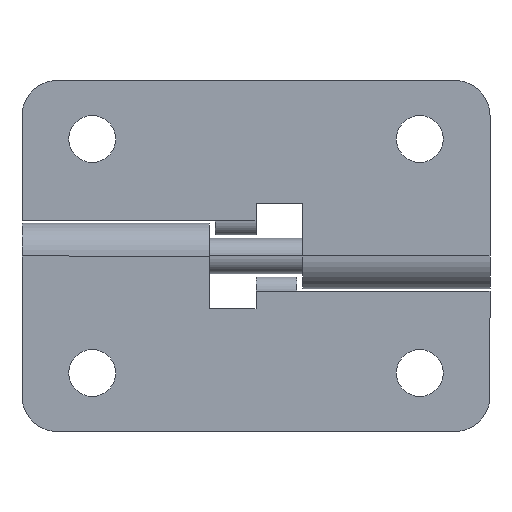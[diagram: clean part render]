
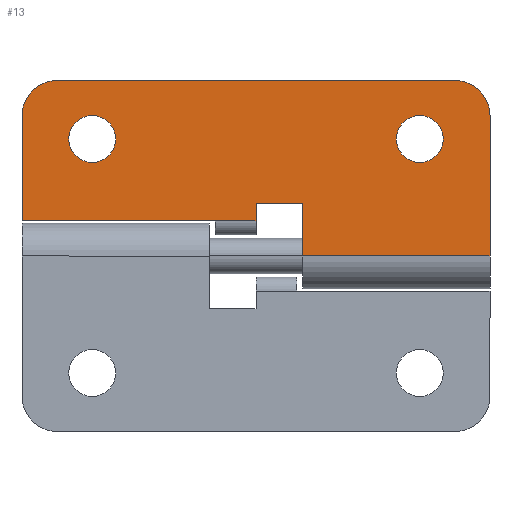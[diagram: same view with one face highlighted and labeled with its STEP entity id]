
A CAD part, left-side view. The second image highlights one B-rep face of the part: STEP entity #13.
In plain terms, the highlighted planar face has unit normal (-1, 0, 0) as drawn and (0, 0, -1) by its records, which use the part's own axes.
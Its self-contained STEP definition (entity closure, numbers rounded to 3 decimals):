
#10 = EDGE_CURVE ( 'NONE', #87, #1950, #209, .T. ) ;
#13 = ADVANCED_FACE ( 'NONE', ( #220, #221, #222 ), #223, .T. ) ;
#28 = VERTEX_POINT ( 'NONE', #271 ) ;
#42 = EDGE_CURVE ( 'NONE', #106, #28, #402, .T. ) ;
#76 = EDGE_CURVE ( 'NONE', #155, #2137, #612, .T. ) ;
#87 = VERTEX_POINT ( 'NONE', #721 ) ;
#106 = VERTEX_POINT ( 'NONE', #938 ) ;
#146 = ORIENTED_EDGE ( 'NONE', *, *, #76, .T. ) ;
#155 = VERTEX_POINT ( 'NONE', #1225 ) ;
#171 = LINE ( 'NONE', #172, #173 ) ;
#172 = CARTESIAN_POINT ( 'NONE',  ( 0., -16., -2.8 ) ) ;
#173 = VECTOR ( 'NONE', #174, 1000. ) ;
#174 = DIRECTION ( 'NONE',  ( -1., 0., 0. ) ) ;
#209 = CIRCLE ( 'NONE', #210, 2. ) ;
#210 = AXIS2_PLACEMENT_3D ( 'NONE', #211, #212, #213 ) ;
#211 = CARTESIAN_POINT ( 'NONE',  ( -10., -10., -2.8 ) ) ;
#212 = DIRECTION ( 'NONE',  ( 0., 0., -1. ) ) ;
#213 = DIRECTION ( 'NONE',  ( -1., 0., 0. ) ) ;
#220 = FACE_BOUND ( 'NONE', #1956, .T. ) ;
#221 = FACE_BOUND ( 'NONE', #2171, .T. ) ;
#222 = FACE_OUTER_BOUND ( 'NONE', #2035, .T. ) ;
#223 = PLANE ( 'NONE',  #224 ) ;
#224 = AXIS2_PLACEMENT_3D ( 'NONE', #225, #226, #227 ) ;
#225 = CARTESIAN_POINT ( 'NONE',  ( 0., -16., -2.8 ) ) ;
#226 = DIRECTION ( 'NONE',  ( 0., 0., -1. ) ) ;
#227 = DIRECTION ( 'NONE',  ( -1., 0., 0. ) ) ;
#237 = LINE ( 'NONE', #238, #239 ) ;
#238 = CARTESIAN_POINT ( 'NONE',  ( -3., 7.5, -2.8 ) ) ;
#239 = VECTOR ( 'NONE', #240, 1000. ) ;
#240 = DIRECTION ( 'NONE',  ( 0., -1., 0. ) ) ;
#271 = CARTESIAN_POINT ( 'NONE',  ( -12., 18., -2.8 ) ) ;
#362 = CARTESIAN_POINT ( 'NONE',  ( -4.5, 0., -2.8 ) ) ;
#402 = CIRCLE ( 'NONE', #403, 2. ) ;
#403 = AXIS2_PLACEMENT_3D ( 'NONE', #404, #405, #406 ) ;
#404 = CARTESIAN_POINT ( 'NONE',  ( -10., 18., -2.8 ) ) ;
#405 = DIRECTION ( 'NONE',  ( 0., 0., -1. ) ) ;
#406 = DIRECTION ( 'NONE',  ( -1., 0., 0. ) ) ;
#461 = LINE ( 'NONE', #462, #463 ) ;
#462 = CARTESIAN_POINT ( 'NONE',  ( -4.5, 4., -2.8 ) ) ;
#463 = VECTOR ( 'NONE', #464, 1000. ) ;
#464 = DIRECTION ( 'NONE',  ( 0., -1., 0. ) ) ;
#498 = CARTESIAN_POINT ( 'NONE',  ( -3., 4., -2.8 ) ) ;
#571 = LINE ( 'NONE', #572, #573 ) ;
#572 = CARTESIAN_POINT ( 'NONE',  ( 0., -16., -2.8 ) ) ;
#573 = VECTOR ( 'NONE', #574, 1000. ) ;
#574 = DIRECTION ( 'NONE',  ( 0., 1., 0. ) ) ;
#612 = CIRCLE ( 'NONE', #613, 3. ) ;
#613 = AXIS2_PLACEMENT_3D ( 'NONE', #614, #615, #616 ) ;
#614 = CARTESIAN_POINT ( 'NONE',  ( -12., 21., -2.8 ) ) ;
#615 = DIRECTION ( 'NONE',  ( 0., 0., -1. ) ) ;
#616 = DIRECTION ( 'NONE',  ( -1., 0., 0. ) ) ;
#652 = CIRCLE ( 'NONE', #653, 3. ) ;
#653 = AXIS2_PLACEMENT_3D ( 'NONE', #654, #655, #656 ) ;
#654 = CARTESIAN_POINT ( 'NONE',  ( -12., -13., -2.8 ) ) ;
#655 = DIRECTION ( 'NONE',  ( 0., 0., -1. ) ) ;
#656 = DIRECTION ( 'NONE',  ( -1., 0., 0. ) ) ;
#657 = LINE ( 'NONE', #658, #659 ) ;
#658 = CARTESIAN_POINT ( 'NONE',  ( -15., -16., -2.8 ) ) ;
#659 = VECTOR ( 'NONE', #660, 1000. ) ;
#660 = DIRECTION ( 'NONE',  ( 0., 1., 0. ) ) ;
#661 = LINE ( 'NONE', #662, #663 ) ;
#662 = CARTESIAN_POINT ( 'NONE',  ( -3., 24., -2.8 ) ) ;
#663 = VECTOR ( 'NONE', #664, 1000. ) ;
#664 = DIRECTION ( 'NONE',  ( 0., -1., 0. ) ) ;
#709 = CARTESIAN_POINT ( 'NONE',  ( -15., -13., -2.8 ) ) ;
#721 = CARTESIAN_POINT ( 'NONE',  ( -8., -10., -2.8 ) ) ;
#758 = CARTESIAN_POINT ( 'NONE',  ( -3., 24., -2.8 ) ) ;
#922 = CIRCLE ( 'NONE', #923, 2. ) ;
#923 = AXIS2_PLACEMENT_3D ( 'NONE', #924, #925, #926 ) ;
#924 = CARTESIAN_POINT ( 'NONE',  ( -10., 18., -2.8 ) ) ;
#925 = DIRECTION ( 'NONE',  ( 0., 0., -1. ) ) ;
#926 = DIRECTION ( 'NONE',  ( -1., 0., 0. ) ) ;
#938 = CARTESIAN_POINT ( 'NONE',  ( -8., 18., -2.8 ) ) ;
#1055 = CARTESIAN_POINT ( 'NONE',  ( -3., 7.5, -2.8 ) ) ;
#1058 = CARTESIAN_POINT ( 'NONE',  ( -4.5, 4., -2.8 ) ) ;
#1084 = CIRCLE ( 'NONE', #1085, 2. ) ;
#1085 = AXIS2_PLACEMENT_3D ( 'NONE', #1086, #1087, #1088 ) ;
#1086 = CARTESIAN_POINT ( 'NONE',  ( -10., -10., -2.8 ) ) ;
#1087 = DIRECTION ( 'NONE',  ( 0., 0., -1. ) ) ;
#1088 = DIRECTION ( 'NONE',  ( -1., 0., 0. ) ) ;
#1113 = LINE ( 'NONE', #1114, #1115 ) ;
#1114 = CARTESIAN_POINT ( 'NONE',  ( -15., 24., -2.8 ) ) ;
#1115 = VECTOR ( 'NONE', #1116, 1000. ) ;
#1116 = DIRECTION ( 'NONE',  ( -1., 0., 0. ) ) ;
#1142 = CARTESIAN_POINT ( 'NONE',  ( 0., 0., -2.8 ) ) ;
#1220 = CARTESIAN_POINT ( 'NONE',  ( -12., -16., -2.8 ) ) ;
#1221 = LINE ( 'NONE', #1222, #1223 ) ;
#1222 = CARTESIAN_POINT ( 'NONE',  ( 0., 0., -2.8 ) ) ;
#1223 = VECTOR ( 'NONE', #1224, 1000. ) ;
#1224 = DIRECTION ( 'NONE',  ( -1., 0., 0. ) ) ;
#1225 = CARTESIAN_POINT ( 'NONE',  ( -15., 21., -2.8 ) ) ;
#1296 = CARTESIAN_POINT ( 'NONE',  ( -12., 24., -2.8 ) ) ;
#1332 = CARTESIAN_POINT ( 'NONE',  ( 0., -16., -2.8 ) ) ;
#1342 = LINE ( 'NONE', #1344, #1345 ) ;
#1344 = CARTESIAN_POINT ( 'NONE',  ( -4.5, 4., -2.8 ) ) ;
#1345 = VECTOR ( 'NONE', #1346, 1000. ) ;
#1346 = DIRECTION ( 'NONE',  ( -1., 0., 0. ) ) ;
#1348 = CARTESIAN_POINT ( 'NONE',  ( -12., -10., -2.8 ) ) ;
#1378 = EDGE_CURVE ( 'NONE', #1910, #1481, #652, .T. ) ;
#1481 = VERTEX_POINT ( 'NONE', #709 ) ;
#1729 = EDGE_CURVE ( 'NONE', #28, #106, #922, .T. ) ;
#1748 = ORIENTED_EDGE ( 'NONE', *, *, #1378, .T. ) ;
#1850 = VERTEX_POINT ( 'NONE', #1055 ) ;
#1851 = VERTEX_POINT ( 'NONE', #1058 ) ;
#1868 = EDGE_CURVE ( 'NONE', #2063, #2137, #1113, .T. ) ;
#1885 = ORIENTED_EDGE ( 'NONE', *, *, #1729, .F. ) ;
#1910 = VERTEX_POINT ( 'NONE', #1220 ) ;
#1939 = VERTEX_POINT ( 'NONE', #1332 ) ;
#1950 = VERTEX_POINT ( 'NONE', #1348 ) ;
#1956 = EDGE_LOOP ( 'NONE', ( #1885, #2191 ) ) ;
#1967 = EDGE_CURVE ( 'NONE', #1939, #1910, #171, .T. ) ;
#1975 = ORIENTED_EDGE ( 'NONE', *, *, #2234, .T. ) ;
#1986 = EDGE_CURVE ( 'NONE', #1850, #2210, #237, .T. ) ;
#1990 = ORIENTED_EDGE ( 'NONE', *, *, #2233, .T. ) ;
#1995 = ORIENTED_EDGE ( 'NONE', *, *, #1967, .T. ) ;
#2020 = ORIENTED_EDGE ( 'NONE', *, *, #1986, .T. ) ;
#2029 = EDGE_CURVE ( 'NONE', #1939, #2110, #571, .T. ) ;
#2035 = EDGE_LOOP ( 'NONE', ( #1995, #1748, #1990, #146, #2074, #1975, #2020, #2154, #2237, #2149, #2066 ) ) ;
#2055 = ORIENTED_EDGE ( 'NONE', *, *, #10, .F. ) ;
#2063 = VERTEX_POINT ( 'NONE', #758 ) ;
#2066 = ORIENTED_EDGE ( 'NONE', *, *, #2029, .F. ) ;
#2074 = ORIENTED_EDGE ( 'NONE', *, *, #1868, .F. ) ;
#2103 = EDGE_CURVE ( 'NONE', #1950, #87, #1084, .T. ) ;
#2110 = VERTEX_POINT ( 'NONE', #1142 ) ;
#2125 = EDGE_CURVE ( 'NONE', #2110, #2194, #1221, .T. ) ;
#2130 = ORIENTED_EDGE ( 'NONE', *, *, #2103, .F. ) ;
#2137 = VERTEX_POINT ( 'NONE', #1296 ) ;
#2145 = EDGE_CURVE ( 'NONE', #2210, #1851, #1342, .T. ) ;
#2149 = ORIENTED_EDGE ( 'NONE', *, *, #2125, .F. ) ;
#2154 = ORIENTED_EDGE ( 'NONE', *, *, #2145, .T. ) ;
#2171 = EDGE_LOOP ( 'NONE', ( #2130, #2055 ) ) ;
#2191 = ORIENTED_EDGE ( 'NONE', *, *, #42, .F. ) ;
#2194 = VERTEX_POINT ( 'NONE', #362 ) ;
#2205 = EDGE_CURVE ( 'NONE', #1851, #2194, #461, .T. ) ;
#2210 = VERTEX_POINT ( 'NONE', #498 ) ;
#2233 = EDGE_CURVE ( 'NONE', #1481, #155, #657, .T. ) ;
#2234 = EDGE_CURVE ( 'NONE', #2063, #1850, #661, .T. ) ;
#2237 = ORIENTED_EDGE ( 'NONE', *, *, #2205, .T. ) ;
